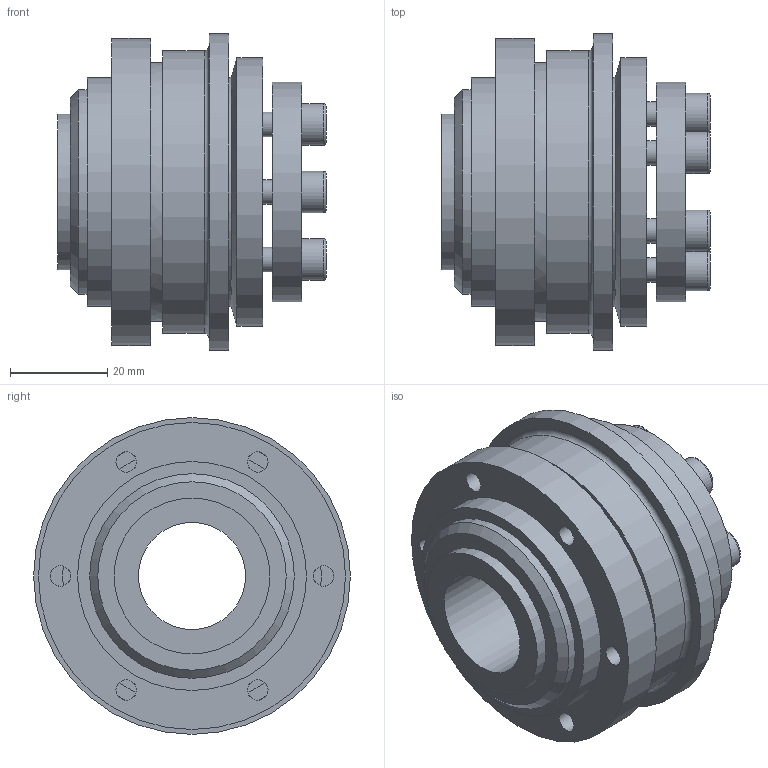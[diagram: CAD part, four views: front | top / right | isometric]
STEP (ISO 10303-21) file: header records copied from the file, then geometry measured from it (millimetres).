
FILE_DESCRIPTION(/* description */ ('STEP AP214'),/* implementation_level */ '2;1');
FILE_NAME(/* name */ 'C:\Diequa Files\DieQua Coupling\TH\STP\TH.30.50.WDG.#.stp',/* time_stamp */ '2019-02-13T16:13:56-06:00',/* author */ ('DiequaCAD'),/* organization */ (''),/* preprocessor_version */ 'ST-DEVELOPER v17.2',/* originating_system */ 'Autodesk Inventor 2019',/* authorisation */ ' ');
FILE_SCHEMA (('AUTOMOTIVE_DESIGN { 1 0 10303 214 3 1 1 }'));
Length unit declared in the file: millimetre
Products named in the file (1): TH.30.50.WDG.#
Bounding box: 55 x 65 x 65 mm (x, y, z)
Volume: 92345 mm3; surface area: 23955.4 mm2
Topology: 1 solids, 1 shells, 104 faces, 247 edges, 160 vertices
Faces by surface type: plane 65, cylinder 30, torus 7, cone 2
Full cylindrical faces by diameter (mm): 4.2 x6, 5 x6, 8.5 x6, 22 x2, 32 x1, 42 x1, 45 x1, 47 x2, 53 x1, 55 x1, 58 x1, 63 x1, 65 x1
Entity records: 3128 total; most frequent: DIRECTION 564, CARTESIAN_POINT 512, ORIENTED_EDGE 494, EDGE_CURVE 247, AXIS2_PLACEMENT_3D 212, VERTEX_POINT 160, EDGE_LOOP 145, LINE 140
